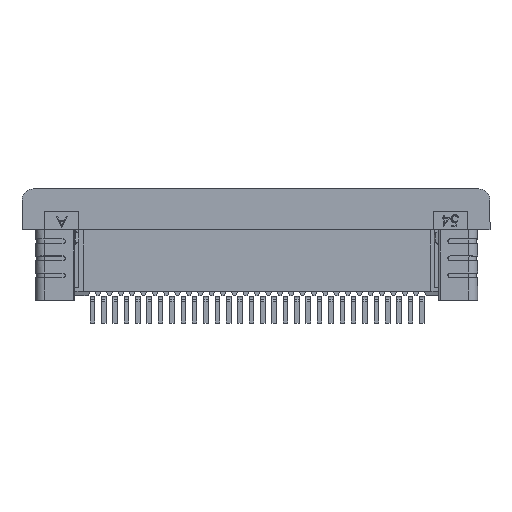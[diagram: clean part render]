
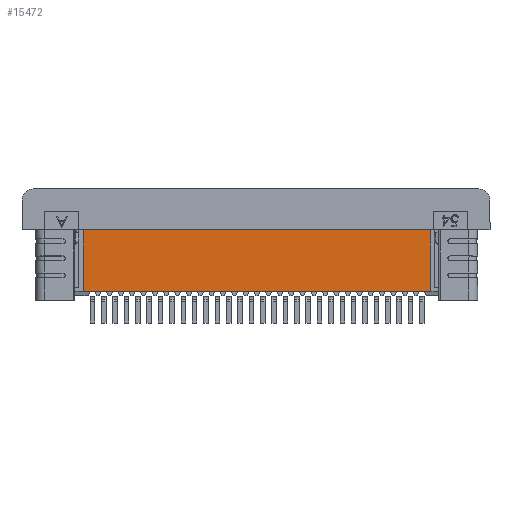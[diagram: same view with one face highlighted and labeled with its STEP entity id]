
A CAD part, top view. The second image highlights one B-rep face of the part: STEP entity #15472.
In plain terms, the highlighted planar face has unit normal (0, 0, 1).
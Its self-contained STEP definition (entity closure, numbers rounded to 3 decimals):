
#189 = LINE ( 'NONE', #14205, #7384 ) ;
#1200 = VERTEX_POINT ( 'NONE', #6182 ) ;
#1625 = EDGE_CURVE ( 'NONE', #3240, #1200, #1673, .T. ) ;
#1645 = LINE ( 'NONE', #15135, #5065 ) ;
#1673 = LINE ( 'NONE', #14701, #16467 ) ;
#1943 = AXIS2_PLACEMENT_3D ( 'NONE', #11484, #7582, #16514 ) ;
#2023 = CARTESIAN_POINT ( 'NONE',  ( -3.15, -1., 2. ) ) ;
#2794 = EDGE_CURVE ( 'NONE', #14309, #3240, #1645, .T. ) ;
#2868 = CARTESIAN_POINT ( 'NONE',  ( -3.15, -3.709, 2. ) ) ;
#3130 = DIRECTION ( 'NONE',  ( 0., 1., 0. ) ) ;
#3240 = VERTEX_POINT ( 'NONE', #5386 ) ;
#3310 = DIRECTION ( 'NONE',  ( 0., 1., 0. ) ) ;
#5065 = VECTOR ( 'NONE', #16188, 1000. ) ;
#5386 = CARTESIAN_POINT ( 'NONE',  ( 12.15, -3.709, 2. ) ) ;
#6182 = CARTESIAN_POINT ( 'NONE',  ( 12.15, -1., 2. ) ) ;
#6508 = ORIENTED_EDGE ( 'NONE', *, *, #9434, .F. ) ;
#6787 = ORIENTED_EDGE ( 'NONE', *, *, #2794, .T. ) ;
#7312 = ORIENTED_EDGE ( 'NONE', *, *, #10912, .T. ) ;
#7384 = VECTOR ( 'NONE', #7951, 1000. ) ;
#7582 = DIRECTION ( 'NONE',  ( 0., 0., 1. ) ) ;
#7951 = DIRECTION ( 'NONE',  ( -1., 0., 0. ) ) ;
#9035 = PLANE ( 'NONE',  #1943 ) ;
#9434 = EDGE_CURVE ( 'NONE', #14309, #12121, #11825, .T. ) ;
#10912 = EDGE_CURVE ( 'NONE', #1200, #12121, #189, .T. ) ;
#10929 = CARTESIAN_POINT ( 'NONE',  ( -3.15, -2.354, 2. ) ) ;
#11484 = CARTESIAN_POINT ( 'NONE',  ( -15.15, -3.709, 2. ) ) ;
#11662 = EDGE_LOOP ( 'NONE', ( #7312, #6508, #6787, #16011 ) ) ;
#11825 = LINE ( 'NONE', #10929, #13021 ) ;
#12121 = VERTEX_POINT ( 'NONE', #2023 ) ;
#13021 = VECTOR ( 'NONE', #3310, 1000. ) ;
#14205 = CARTESIAN_POINT ( 'NONE',  ( -15.15, -1., 2. ) ) ;
#14309 = VERTEX_POINT ( 'NONE', #2868 ) ;
#14701 = CARTESIAN_POINT ( 'NONE',  ( 12.15, -2.354, 2. ) ) ;
#15085 = FACE_OUTER_BOUND ( 'NONE', #11662, .T. ) ;
#15135 = CARTESIAN_POINT ( 'NONE',  ( -15.15, -3.709, 2. ) ) ;
#15472 = ADVANCED_FACE ( 'NONE', ( #15085 ), #9035, .T. ) ;
#16011 = ORIENTED_EDGE ( 'NONE', *, *, #1625, .T. ) ;
#16188 = DIRECTION ( 'NONE',  ( 1., 0., 0. ) ) ;
#16467 = VECTOR ( 'NONE', #3130, 1000. ) ;
#16514 = DIRECTION ( 'NONE',  ( 1., 0., 0. ) ) ;
